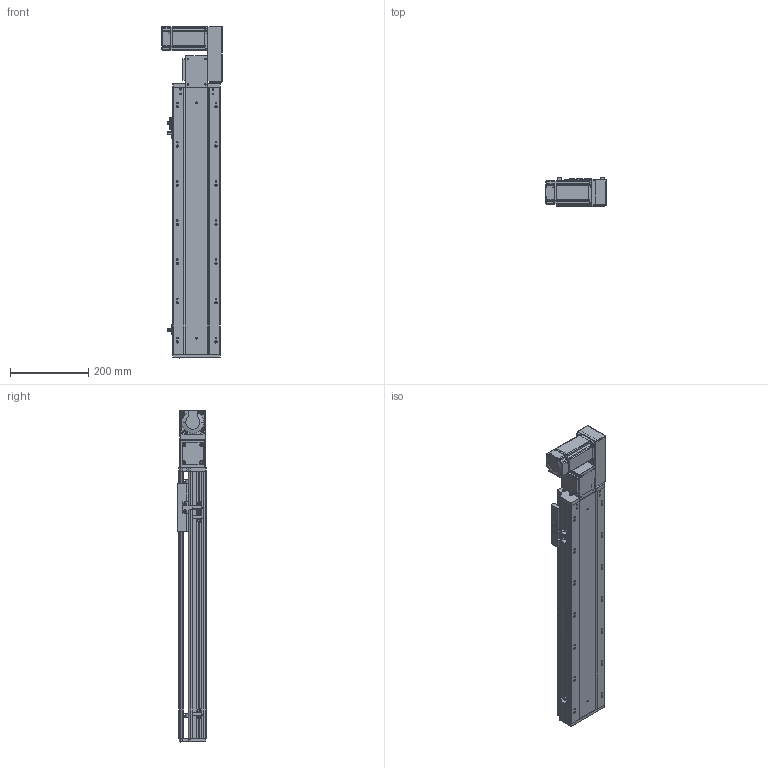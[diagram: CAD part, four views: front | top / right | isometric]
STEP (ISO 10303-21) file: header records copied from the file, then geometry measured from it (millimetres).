
FILE_DESCRIPTION (( 'STEP AP203' ), '1' );
FILE_NAME ('RY120-T-300-RK.SLDASM_450.step', '2021-03-01T03:52:40', ( '盈信电脑' ), ( '东莞市道滘镇水果街19号' ), 'SwSTEP 2.0', 'SolidWorks 2012', '' );
FILE_SCHEMA (( 'CONFIG_CONTROL_DESIGN' ));
Length unit declared in the file: millimetre
Products named in the file (17): RY120-T翋肮祭盓傅釱; RY120-T肮祭湍揤踡輸1; RY120-T肮祭湍揤踡輸2; RY120外置感应片(140共用）; 覜茼ん672; RY120綴裔啣; RY120肮祭湍臏賑輸; RY120-T-300-RK倰第菁釱_450; RY120-T-300-RK倰第奻裔啣_450; RY120-T主同步轮轴承压盖; RY120-T萇儂欶; RY120-T-300-RK.SLDASM_450; RY120-T蹟翐M4; RY120-T萇儂假蚾啣; 15; 滅袉蝶18-10; RY120-T翋肮祭謫裔啣
Assembly tree (22 placements, depth 2):
  RY120-T-300-RK.SLDASM_450
    RY120-T-300-RK倰第菁釱_450
    RY120-T-300-RK倰第奻裔啣_450
    RY120肮祭湍臏賑輸
    RY120綴裔啣
    覜茼ん672  x3
    RY120外置感应片(140共用）
    RY120-T肮祭湍揤踡輸1
    RY120-T肮祭湍揤踡輸2
    RY120-T翋肮祭盓傅釱
    滅袉蝶18-10  x2
    RY120-T翋肮祭謫裔啣
    15
    RY120-T萇儂假蚾啣
    RY120-T蹟翐M4  x4
    RY120-T萇儂欶
    RY120-T主同步轮轴承压盖
Bounding box: 155.5 x 73 x 847.5 mm (x, y, z)
Volume: 2409601.6 mm3; surface area: 874244 mm2
Topology: 23 solids, 23 shells, 2752 faces, 7512 edges, 4838 vertices
Faces by surface type: plane 1416, cylinder 1030, cone 217, bspline 89
Entity records: 87769 total; most frequent: CARTESIAN_POINT 22380, ORIENTED_EDGE 13512, DIRECTION 12726, EDGE_CURVE 6756, VERTEX_POINT 4425, VECTOR 4248, LINE 4248, AXIS2_PLACEMENT_3D 4239
